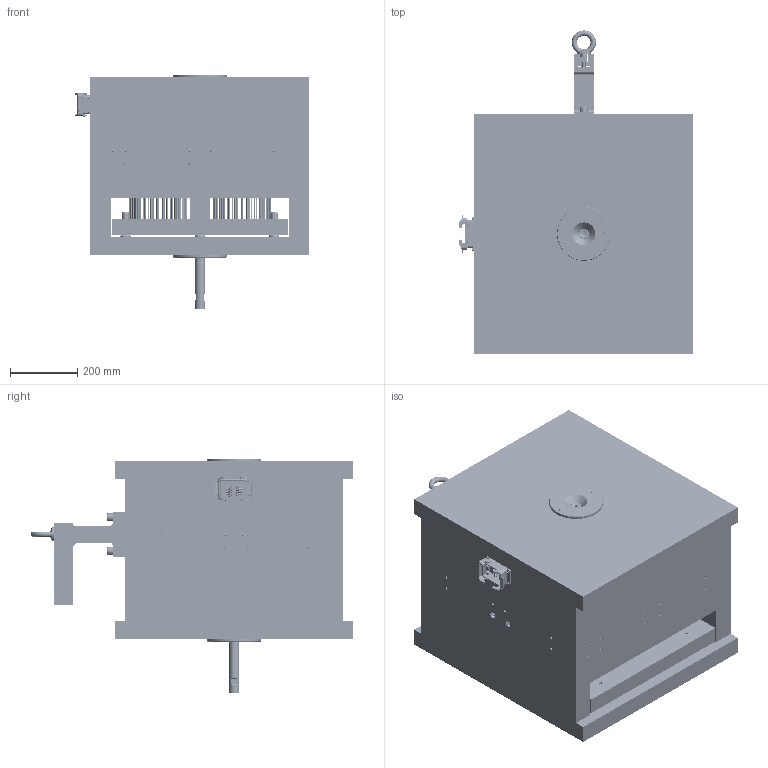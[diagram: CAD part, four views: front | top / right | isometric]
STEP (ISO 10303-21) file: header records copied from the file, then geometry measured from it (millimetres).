
FILE_DESCRIPTION(('CATIA V5 STEP Exchange','CAx-IF Rec.Pracs.--- Composite Materials ---3.4---2017-06-13'),'2;1');
FILE_NAME('C:\Users\ondra\Desktop\FORMA STEP\FORMA MASLIK BP.stp','2025-05-15T17:30:26+00:00',('none'),('none'),'CATIA Version 5-6 Release 2020 SP6','CATIA V5 STEP AP203 v2','none');
FILE_SCHEMA(('CONFIG_CONTROL_DESIGN'));
Products named in the file (33): FORMA MASLIK BP; prava_strana; EH 61001 HMT4_37_210_131.25 __ L1=125 _ L2=125; E 2710_32A; leva_strana; bocni_celisti; E 1300_4x10; Copy (1) of E 1300_4x10; Copy (1) of Copy (1) of E 1300_4x10; Copy (2) of E 1300_4x10; TlgItf_leva_strana; Copy (1) of vyhazovaci_system; TlgItf_vyhazovaci_system; vyhazovace; Copy (2) of E 3200_2_3; Copy (2) of Symmetry of Copy (1) of Copy (1) of E 3200_2_3; Copy (1) of Symmetry of E 3200_2_3_1; Copy (1) of Copy (1) of Symmetry of Copy (1) of Copy (1) of E 3200_2_3; TlgItf_Copy (1) of Copy (1) of Symmetry of Copy (1) of Copy (1) of E 3200_2_3; Forma_Copy (1) of Copy (1) of Symmetry of Copy (1) of Copy (1) of E 3200_2_3_3; Symmetry of pruzne_vyhazovace; Symmetry of Copy (2) of E 3200_2_3; Symmetry of Copy (2) of Symmetry of Copy (1) of Copy (1) of E 3200_2_3; Symmetry of Copy (1) of Symmetry of E 3200_2_3_1; Symmetry of Copy (1) of Copy (1) of Symmetry of Copy (1) of Copy (1) of E 3200_2_3; Symmetry of vyhazovace; Symmetry of Copy (2) of E 3200_2_3_1; Symmetry of Copy (2) of Symmetry of Copy (1) of Copy (1) of E 3200_2_3_1; Symmetry of Copy (1) of Symmetry of E 3200_2_3_1_1; Symmetry of Copy (1) of Copy (1) of Symmetry of Copy (1) of Copy (1) of E 3200_2_3_1; Symmetry of TlgItf_Copy (1) of Copy (1) of Symmetry of Copy (1) of Copy (1) of E 3200_2_3; Symmetry of Forma_Copy (1) of Copy (1) of Symmetry of Copy (1) of Copy (1) of E 3200_2_3_3; E 1930_100_155
Assembly tree (377 placements, depth 6):
  FORMA MASLIK BP
    prava_strana
      EH 61001 HMT4_37_210_131.25 __ L1=125 _ L2=125
        #73
        #3508
        #6943
        #10388
        #13857
        #19419
        #24945
        #30495
        #36021
        #37186
        #37457
        #38094
        #38429
        #38764
        #39099
        #39434
        #39769
        #40104
        #40439
        #40774
        #41109
        #41444
        #41779
        #42114
        #42839
        #43516
        #44193
        #44870
        #45559
        #46260
        #46961
        #47638
        #48339
        #49040
        #49717
        #50418
        #50671
        #50924
        #51177
        #51430
        #51683
        #51936
        #52189
        #52442
        #52695
        #52948
        #53201
        #53454
        #53709
        #53964
        #54219
        #54474
        #54729
        #54984
        #55239
        #55494
        #55749
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Bounding box: 696.6 x 960 x 698.41 mm (x, y, z)
Volume: 199771149.3 mm3; surface area: 14340368.4 mm2
Topology: 526 solids, 548 shells, 21196 faces, 52693 edges, 33168 vertices
Faces by surface type: cylinder 7915, plane 5265, cone 3901, bspline 2758, torus 1045, extrusion 232, sphere 80
Entity records: 811201 total; most frequent: CARTESIAN_POINT 453442, ORIENTED_EDGE 85766, DIRECTION 47916, EDGE_CURVE 42902, VERTEX_POINT 27328, AXIS2_PLACEMENT_3D 22272, EDGE_LOOP 19768, ADVANCED_FACE 17022
